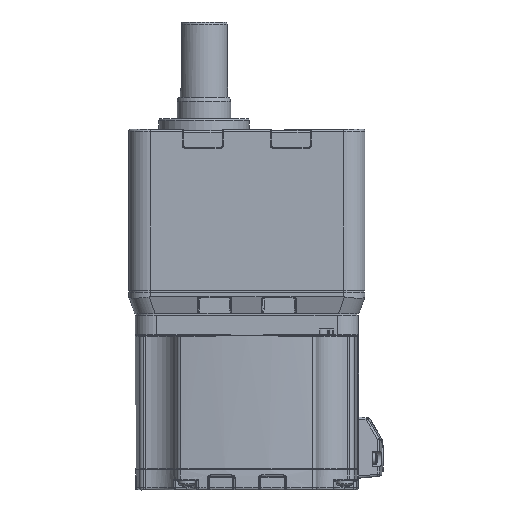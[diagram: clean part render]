
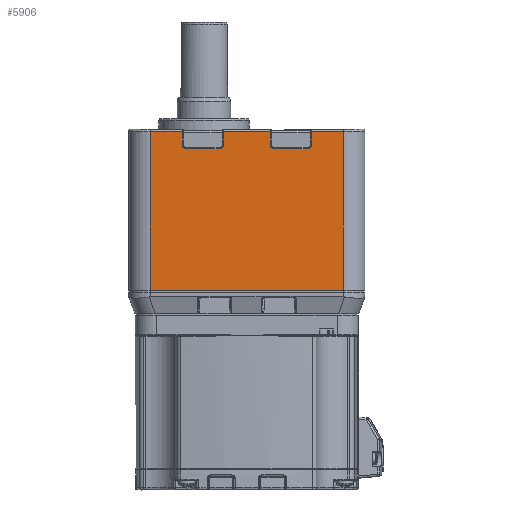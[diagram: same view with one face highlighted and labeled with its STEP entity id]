
A CAD part, left-side view. The second image highlights one B-rep face of the part: STEP entity #5906.
In plain terms, the highlighted planar face has unit normal (-1, 0, 0).
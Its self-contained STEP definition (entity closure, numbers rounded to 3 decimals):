
#2089=CARTESIAN_POINT('',(-107.,22.,120.772));
#2090=VERTEX_POINT('',#2089);
#2123=CARTESIAN_POINT('',(-107.,22.,114.272));
#2124=VERTEX_POINT('',#2123);
#2132=CARTESIAN_POINT('',(-107.,22.,114.272));
#2133=DIRECTION('',(0.0,0.0,1.0));
#2134=VECTOR('',#2133,6.5);
#2135=LINE('',#2132,#2134);
#2136=EDGE_CURVE('',#2124,#2090,#2135,.T.);
#2155=CARTESIAN_POINT('',(-107.,23.5,112.772));
#2156=VERTEX_POINT('',#2155);
#2164=CARTESIAN_POINT('',(-107.,23.5,114.272));
#2165=DIRECTION('',(-1.,0.,0.));
#2166=DIRECTION('',(0.,-0.707,-0.707));
#2167=AXIS2_PLACEMENT_3D('',#2164,#2165,#2166);
#2168=CIRCLE('',#2167,1.5);
#2169=EDGE_CURVE('',#2156,#2124,#2168,.T.);
#2189=CARTESIAN_POINT('',(-107.,39.5,112.772));
#2190=VERTEX_POINT('',#2189);
#2198=CARTESIAN_POINT('',(-107.,39.5,112.772));
#2199=DIRECTION('',(0.0,-1.0,0.0));
#2200=VECTOR('',#2199,16.);
#2201=LINE('',#2198,#2200);
#2202=EDGE_CURVE('',#2190,#2156,#2201,.T.);
#2221=CARTESIAN_POINT('',(-107.,41.,114.272));
#2222=VERTEX_POINT('',#2221);
#2230=CARTESIAN_POINT('',(-107.,39.5,114.272));
#2231=DIRECTION('',(-1.0,0.,0.));
#2232=DIRECTION('',(0.,0.707,-0.707));
#2233=AXIS2_PLACEMENT_3D('',#2230,#2231,#2232);
#2234=CIRCLE('',#2233,1.5);
#2235=EDGE_CURVE('',#2222,#2190,#2234,.T.);
#2255=CARTESIAN_POINT('',(-107.,41.,120.772));
#2256=VERTEX_POINT('',#2255);
#2264=CARTESIAN_POINT('',(-107.,41.,120.772));
#2265=DIRECTION('',(0.0,0.0,-1.0));
#2266=VECTOR('',#2265,6.5);
#2267=LINE('',#2264,#2266);
#2268=EDGE_CURVE('',#2256,#2222,#2267,.T.);
#2511=CARTESIAN_POINT('',(-107.,63.,120.772));
#2512=VERTEX_POINT('',#2511);
#2545=CARTESIAN_POINT('',(-107.,63.,114.272));
#2546=VERTEX_POINT('',#2545);
#2554=CARTESIAN_POINT('',(-107.,63.,114.272));
#2555=DIRECTION('',(0.0,0.0,1.0));
#2556=VECTOR('',#2555,6.5);
#2557=LINE('',#2554,#2556);
#2558=EDGE_CURVE('',#2546,#2512,#2557,.T.);
#2577=CARTESIAN_POINT('',(-107.,64.5,112.772));
#2578=VERTEX_POINT('',#2577);
#2586=CARTESIAN_POINT('',(-107.,64.5,114.272));
#2587=DIRECTION('',(-1.0,0.,0.));
#2588=DIRECTION('',(0.,-0.707,-0.707));
#2589=AXIS2_PLACEMENT_3D('',#2586,#2587,#2588);
#2590=CIRCLE('',#2589,1.5);
#2591=EDGE_CURVE('',#2578,#2546,#2590,.T.);
#2611=CARTESIAN_POINT('',(-107.,80.5,112.772));
#2612=VERTEX_POINT('',#2611);
#2620=CARTESIAN_POINT('',(-107.,80.5,112.772));
#2621=DIRECTION('',(0.0,-1.0,0.0));
#2622=VECTOR('',#2621,16.);
#2623=LINE('',#2620,#2622);
#2624=EDGE_CURVE('',#2612,#2578,#2623,.T.);
#2643=CARTESIAN_POINT('',(-107.,82.,114.272));
#2644=VERTEX_POINT('',#2643);
#2652=CARTESIAN_POINT('',(-107.,80.5,114.272));
#2653=DIRECTION('',(-1.,0.,0.));
#2654=DIRECTION('',(0.,0.707,-0.707));
#2655=AXIS2_PLACEMENT_3D('',#2652,#2653,#2654);
#2656=CIRCLE('',#2655,1.5);
#2657=EDGE_CURVE('',#2644,#2612,#2656,.T.);
#2677=CARTESIAN_POINT('',(-107.,82.,120.772));
#2678=VERTEX_POINT('',#2677);
#2686=CARTESIAN_POINT('',(-107.,82.,120.772));
#2687=DIRECTION('',(0.0,0.0,-1.0));
#2688=VECTOR('',#2687,6.5);
#2689=LINE('',#2686,#2688);
#2690=EDGE_CURVE('',#2678,#2644,#2689,.T.);
#5809=CARTESIAN_POINT('',(-107.,97.0,120.772));
#5810=VERTEX_POINT('',#5809);
#5818=CARTESIAN_POINT('',(-107.,97.,120.772));
#5819=DIRECTION('',(0.0,-1.0,0.0));
#5820=VECTOR('',#5819,15.);
#5821=LINE('',#5818,#5820);
#5822=EDGE_CURVE('',#5810,#2678,#5821,.T.);
#5833=CARTESIAN_POINT('',(-107.,7.,120.772));
#5834=VERTEX_POINT('',#5833);
#5835=CARTESIAN_POINT('',(-107.,22.,120.772));
#5836=DIRECTION('',(0.0,-1.0,0.0));
#5837=VECTOR('',#5836,15.0);
#5838=LINE('',#5835,#5837);
#5839=EDGE_CURVE('',#2090,#5834,#5838,.T.);
#5859=CARTESIAN_POINT('',(-107.0,107.0,46.772));
#5860=DIRECTION('',(-1.0,0.0,0.0));
#5861=DIRECTION('',(0.0,0.0,-1.0));
#5862=AXIS2_PLACEMENT_3D('',#5859,#5860,#5861);
#5863=PLANE('',#5862);
#5864=ORIENTED_EDGE('',*,*,#2690,.F.);
#5865=ORIENTED_EDGE('',*,*,#5822,.F.);
#5866=CARTESIAN_POINT('',(-107.0,97.0,46.772));
#5867=VERTEX_POINT('',#5866);
#5868=CARTESIAN_POINT('',(-107.0,97.0,46.772));
#5869=DIRECTION('',(0.0,0.0,1.0));
#5870=VECTOR('',#5869,74.0);
#5871=LINE('',#5868,#5870);
#5872=EDGE_CURVE('',#5867,#5810,#5871,.T.);
#5873=ORIENTED_EDGE('',*,*,#5872,.F.);
#5874=CARTESIAN_POINT('',(-107.,7.,46.772));
#5875=VERTEX_POINT('',#5874);
#5876=CARTESIAN_POINT('',(-107.0,97.0,46.772));
#5877=DIRECTION('',(0.0,-1.0,0.0));
#5878=VECTOR('',#5877,90.0);
#5879=LINE('',#5876,#5878);
#5880=EDGE_CURVE('',#5867,#5875,#5879,.T.);
#5881=ORIENTED_EDGE('',*,*,#5880,.T.);
#5882=CARTESIAN_POINT('',(-107.,7.,120.772));
#5883=DIRECTION('',(0.0,0.0,-1.0));
#5884=VECTOR('',#5883,74.0);
#5885=LINE('',#5882,#5884);
#5886=EDGE_CURVE('',#5834,#5875,#5885,.T.);
#5887=ORIENTED_EDGE('',*,*,#5886,.F.);
#5888=ORIENTED_EDGE('',*,*,#5839,.F.);
#5889=ORIENTED_EDGE('',*,*,#2136,.F.);
#5890=ORIENTED_EDGE('',*,*,#2169,.F.);
#5891=ORIENTED_EDGE('',*,*,#2202,.F.);
#5892=ORIENTED_EDGE('',*,*,#2235,.F.);
#5893=ORIENTED_EDGE('',*,*,#2268,.F.);
#5894=CARTESIAN_POINT('',(-107.,63.,120.772));
#5895=DIRECTION('',(0.0,-1.0,0.0));
#5896=VECTOR('',#5895,22.);
#5897=LINE('',#5894,#5896);
#5898=EDGE_CURVE('',#2512,#2256,#5897,.T.);
#5899=ORIENTED_EDGE('',*,*,#5898,.F.);
#5900=ORIENTED_EDGE('',*,*,#2558,.F.);
#5901=ORIENTED_EDGE('',*,*,#2591,.F.);
#5902=ORIENTED_EDGE('',*,*,#2624,.F.);
#5903=ORIENTED_EDGE('',*,*,#2657,.F.);
#5904=EDGE_LOOP('',(#5864,#5865,#5873,#5881,#5887,#5888,#5889,#5890,#5891,#5892,#5893,#5899,#5900,#5901,#5902,#5903));
#5905=FACE_OUTER_BOUND('',#5904,.T.);
#5906=ADVANCED_FACE('',(#5905),#5863,.T.);
